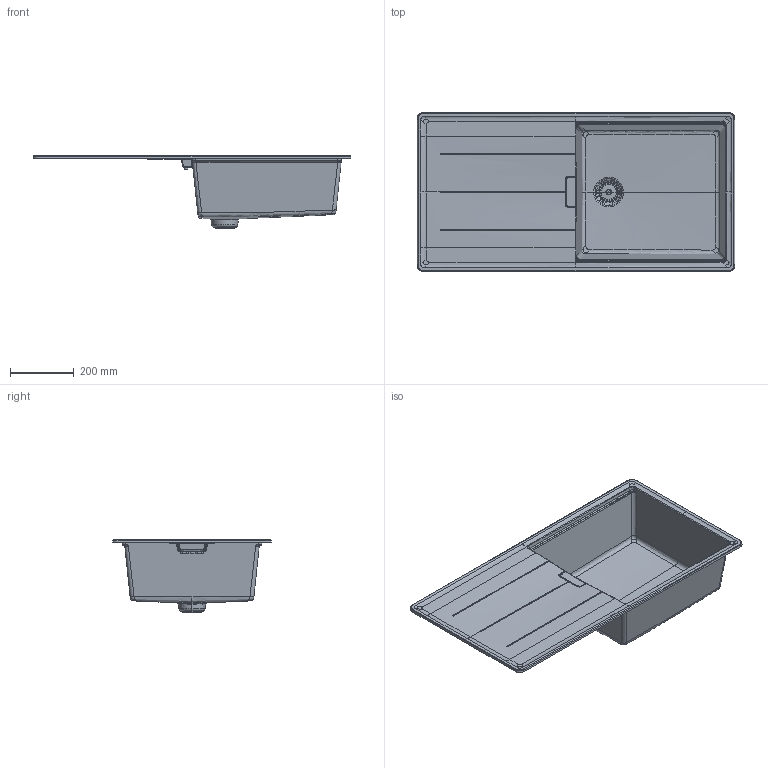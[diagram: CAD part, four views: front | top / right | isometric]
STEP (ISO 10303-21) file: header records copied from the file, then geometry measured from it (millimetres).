
FILE_DESCRIPTION(/* description */ (''),/* implementation_level */ '2;1');
FILE_NAME(/* name */ 'TIAD100L',/* time_stamp */ '2021-03-09T17:05:15+01:00',/* author */ (''),/* organization */ (''),/* preprocessor_version */ 'ST-DEVELOPER v15',/* originating_system */ '',/* authorisation */ '');
FILE_SCHEMA (('AUTOMOTIVE_DESIGN_CC2'));
Length unit declared in the file: millimetre
Products named in the file (1): Document
Bounding box: 1000 x 500 x 227.03 mm (x, y, z)
Volume: 14166.8 mm3; surface area: 824263.3 mm2
Topology: 3 solids, 4 shells, 441 faces, 1284 edges, 785 vertices
Faces by surface type: bspline 400, plane 41
Entity records: 68977 total; most frequent: CARTESIAN_POINT 61675, ORIENTED_EDGE 2496, EDGE_CURVE 1276, B_SPLINE_CURVE_WITH_KNOTS 985, VERTEX_POINT 785, EDGE_LOOP 525, ADVANCED_FACE 441, FACE_OUTER_BOUND 441
